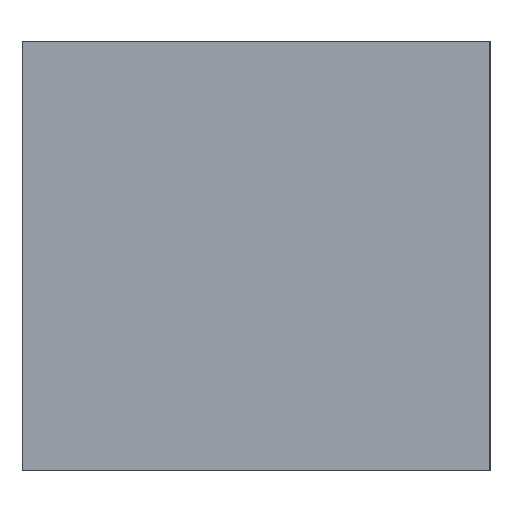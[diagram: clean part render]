
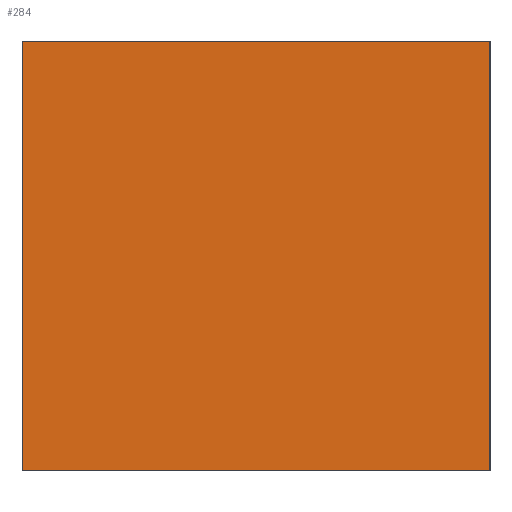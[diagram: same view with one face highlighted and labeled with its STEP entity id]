
A CAD part, left-side view. The second image highlights one B-rep face of the part: STEP entity #284.
In plain terms, the highlighted planar face has unit normal (-1, 0, 0).
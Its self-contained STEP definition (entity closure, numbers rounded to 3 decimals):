
#21 = EDGE_CURVE('',#22,#24,#26,.T.);
#22 = VERTEX_POINT('',#23);
#23 = CARTESIAN_POINT('',(-18.,-108.5,140.6));
#24 = VERTEX_POINT('',#25);
#25 = CARTESIAN_POINT('',(-18.,-108.5,162.6));
#26 = SURFACE_CURVE('',#27,(#31,#43),.PCURVE_S1.);
#27 = LINE('',#28,#29);
#28 = CARTESIAN_POINT('',(-18.,-108.5,140.6));
#29 = VECTOR('',#30,1.);
#30 = DIRECTION('',(0.,0.,1.));
#31 = PCURVE('',#32,#37);
#32 = PLANE('',#33);
#33 = AXIS2_PLACEMENT_3D('',#34,#35,#36);
#34 = CARTESIAN_POINT('',(-18.,-108.5,140.6));
#35 = DIRECTION('',(0.,1.,0.));
#36 = DIRECTION('',(1.,0.,0.));
#37 = DEFINITIONAL_REPRESENTATION('',(#38),#42);
#38 = LINE('',#39,#40);
#39 = CARTESIAN_POINT('',(0.,0.));
#40 = VECTOR('',#41,1.);
#41 = DIRECTION('',(0.,-1.));
#42 = ( GEOMETRIC_REPRESENTATION_CONTEXT(2) 
PARAMETRIC_REPRESENTATION_CONTEXT() REPRESENTATION_CONTEXT('2D SPACE',''
  ) );
#43 = PCURVE('',#44,#49);
#44 = PLANE('',#45);
#45 = AXIS2_PLACEMENT_3D('',#46,#47,#48);
#46 = CARTESIAN_POINT('',(-18.,-84.5,140.6));
#47 = DIRECTION('',(1.,0.,-0.));
#48 = DIRECTION('',(0.,-1.,0.));
#49 = DEFINITIONAL_REPRESENTATION('',(#50),#54);
#50 = LINE('',#51,#52);
#51 = CARTESIAN_POINT('',(24.,0.));
#52 = VECTOR('',#53,1.);
#53 = DIRECTION('',(0.,-1.));
#54 = ( GEOMETRIC_REPRESENTATION_CONTEXT(2) 
PARAMETRIC_REPRESENTATION_CONTEXT() REPRESENTATION_CONTEXT('2D SPACE',''
  ) );
#72 = PLANE('',#73);
#73 = AXIS2_PLACEMENT_3D('',#74,#75,#76);
#74 = CARTESIAN_POINT('',(0.,-96.5,162.6));
#75 = DIRECTION('',(0.,0.,1.));
#76 = DIRECTION('',(1.,0.,-0.));
#126 = PLANE('',#127);
#127 = AXIS2_PLACEMENT_3D('',#128,#129,#130);
#128 = CARTESIAN_POINT('',(0.,-96.5,140.6));
#129 = DIRECTION('',(0.,0.,1.));
#130 = DIRECTION('',(1.,0.,-0.));
#181 = PLANE('',#182);
#182 = AXIS2_PLACEMENT_3D('',#183,#184,#185);
#183 = CARTESIAN_POINT('',(18.,-84.5,140.6));
#184 = DIRECTION('',(0.,-1.,0.));
#185 = DIRECTION('',(-1.,0.,0.));
#219 = VERTEX_POINT('',#220);
#220 = CARTESIAN_POINT('',(-18.,-84.5,162.6));
#241 = EDGE_CURVE('',#242,#219,#244,.T.);
#242 = VERTEX_POINT('',#243);
#243 = CARTESIAN_POINT('',(-18.,-84.5,140.6));
#244 = SURFACE_CURVE('',#245,(#249,#256),.PCURVE_S1.);
#245 = LINE('',#246,#247);
#246 = CARTESIAN_POINT('',(-18.,-84.5,140.6));
#247 = VECTOR('',#248,1.);
#248 = DIRECTION('',(0.,0.,1.));
#249 = PCURVE('',#181,#250);
#250 = DEFINITIONAL_REPRESENTATION('',(#251),#255);
#251 = LINE('',#252,#253);
#252 = CARTESIAN_POINT('',(36.,0.));
#253 = VECTOR('',#254,1.);
#254 = DIRECTION('',(0.,-1.));
#255 = ( GEOMETRIC_REPRESENTATION_CONTEXT(2) 
PARAMETRIC_REPRESENTATION_CONTEXT() REPRESENTATION_CONTEXT('2D SPACE',''
  ) );
#256 = PCURVE('',#44,#257);
#257 = DEFINITIONAL_REPRESENTATION('',(#258),#262);
#258 = LINE('',#259,#260);
#259 = CARTESIAN_POINT('',(0.,0.));
#260 = VECTOR('',#261,1.);
#261 = DIRECTION('',(0.,-1.));
#262 = ( GEOMETRIC_REPRESENTATION_CONTEXT(2) 
PARAMETRIC_REPRESENTATION_CONTEXT() REPRESENTATION_CONTEXT('2D SPACE',''
  ) );
#284 = ADVANCED_FACE('',(#285),#44,.F.);
#285 = FACE_BOUND('',#286,.F.);
#286 = EDGE_LOOP('',(#287,#288,#309,#310));
#287 = ORIENTED_EDGE('',*,*,#241,.T.);
#288 = ORIENTED_EDGE('',*,*,#289,.T.);
#289 = EDGE_CURVE('',#219,#24,#290,.T.);
#290 = SURFACE_CURVE('',#291,(#295,#302),.PCURVE_S1.);
#291 = LINE('',#292,#293);
#292 = CARTESIAN_POINT('',(-18.,-84.5,162.6));
#293 = VECTOR('',#294,1.);
#294 = DIRECTION('',(0.,-1.,0.));
#295 = PCURVE('',#44,#296);
#296 = DEFINITIONAL_REPRESENTATION('',(#297),#301);
#297 = LINE('',#298,#299);
#298 = CARTESIAN_POINT('',(0.,-22.));
#299 = VECTOR('',#300,1.);
#300 = DIRECTION('',(1.,0.));
#301 = ( GEOMETRIC_REPRESENTATION_CONTEXT(2) 
PARAMETRIC_REPRESENTATION_CONTEXT() REPRESENTATION_CONTEXT('2D SPACE',''
  ) );
#302 = PCURVE('',#72,#303);
#303 = DEFINITIONAL_REPRESENTATION('',(#304),#308);
#304 = LINE('',#305,#306);
#305 = CARTESIAN_POINT('',(-18.,12.));
#306 = VECTOR('',#307,1.);
#307 = DIRECTION('',(0.,-1.));
#308 = ( GEOMETRIC_REPRESENTATION_CONTEXT(2) 
PARAMETRIC_REPRESENTATION_CONTEXT() REPRESENTATION_CONTEXT('2D SPACE',''
  ) );
#309 = ORIENTED_EDGE('',*,*,#21,.F.);
#310 = ORIENTED_EDGE('',*,*,#311,.F.);
#311 = EDGE_CURVE('',#242,#22,#312,.T.);
#312 = SURFACE_CURVE('',#313,(#317,#324),.PCURVE_S1.);
#313 = LINE('',#314,#315);
#314 = CARTESIAN_POINT('',(-18.,-84.5,140.6));
#315 = VECTOR('',#316,1.);
#316 = DIRECTION('',(0.,-1.,0.));
#317 = PCURVE('',#44,#318);
#318 = DEFINITIONAL_REPRESENTATION('',(#319),#323);
#319 = LINE('',#320,#321);
#320 = CARTESIAN_POINT('',(0.,0.));
#321 = VECTOR('',#322,1.);
#322 = DIRECTION('',(1.,0.));
#323 = ( GEOMETRIC_REPRESENTATION_CONTEXT(2) 
PARAMETRIC_REPRESENTATION_CONTEXT() REPRESENTATION_CONTEXT('2D SPACE',''
  ) );
#324 = PCURVE('',#126,#325);
#325 = DEFINITIONAL_REPRESENTATION('',(#326),#330);
#326 = LINE('',#327,#328);
#327 = CARTESIAN_POINT('',(-18.,12.));
#328 = VECTOR('',#329,1.);
#329 = DIRECTION('',(0.,-1.));
#330 = ( GEOMETRIC_REPRESENTATION_CONTEXT(2) 
PARAMETRIC_REPRESENTATION_CONTEXT() REPRESENTATION_CONTEXT('2D SPACE',''
  ) );
